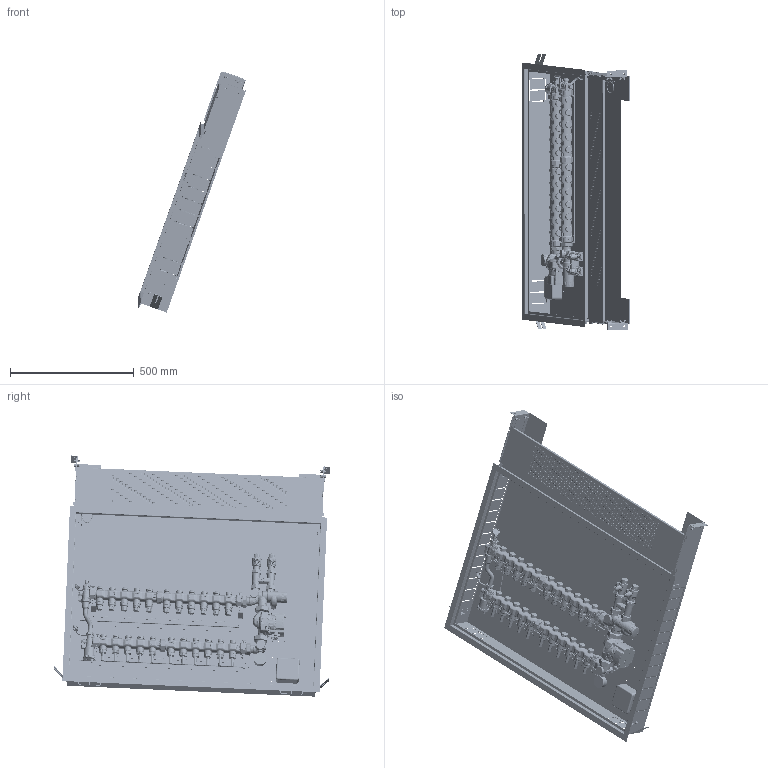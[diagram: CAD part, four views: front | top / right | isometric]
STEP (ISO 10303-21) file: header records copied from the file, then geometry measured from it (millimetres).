
FILE_DESCRIPTION(('CATIA V5 STEP Exchange','CAx-IF Rec.Pracs.--- Model Styling and Organization---1.4--- 2014-01-23','CAx-IF Rec.Pracs.---3D Tessellated Data Validation Properties---0.5---2014-09-14'),'2;1');
FILE_NAME('C:\PTC\Shared\w2i1j41\STEP_1725M1A2L_-_TST.stp','2021-09-30T07:49:05+00:00',('none'),('none'),'CATIA Version 5-6 Release 2019 SP3','CATIA V5 STEP AP242 v1','none');
FILE_SCHEMA(('AP242_MANAGED_MODEL_BASED_3D_ENGINEERING_MIM_LF {1 0 10303 442 1 1 4}'));
Products named in the file (1): 1725M1A2L - TST
Bounding box: 434.61 x 1117.99 x 974.51 mm (x, y, z)
Volume: 7184402.1 mm3; surface area: 4190255.7 mm2
Topology: 2 solids, 220 shells, 24023 faces, 60011 edges, 35164 vertices
Faces by surface type: bspline 8189, cylinder 5652, plane 4614, torus 2123, cone 1613, sphere 816, extrusion 767, revolution 249
Entity records: 1157191 total; most frequent: CARTESIAN_POINT 696063, ORIENTED_EDGE 116764, EDGE_CURVE 58748, DIRECTION 52634, VERTEX_POINT 35119, B_SPLINE_CURVE_WITH_KNOTS 29544, EDGE_LOOP 24870, AXIS2_PLACEMENT_3D 24702
